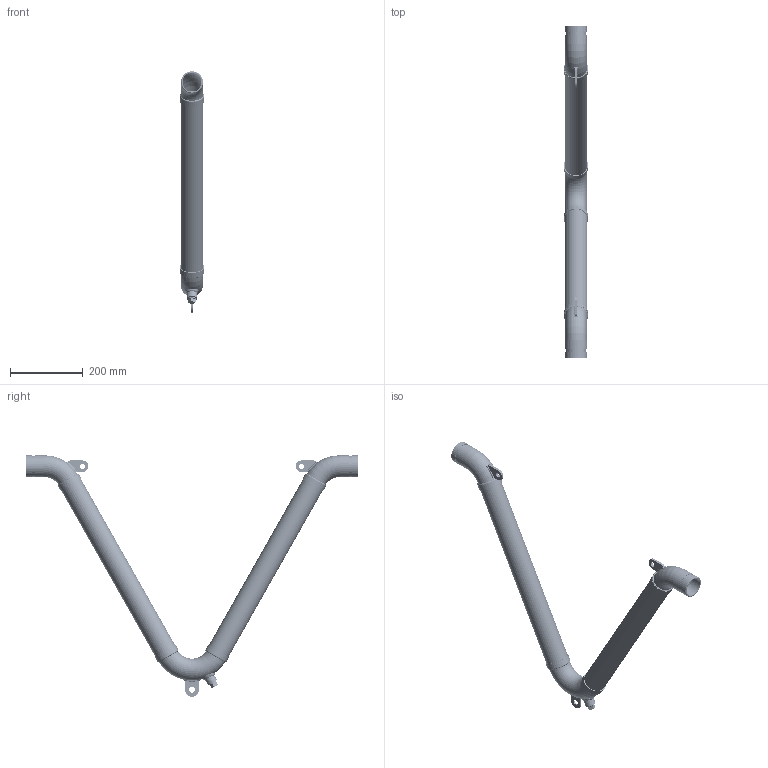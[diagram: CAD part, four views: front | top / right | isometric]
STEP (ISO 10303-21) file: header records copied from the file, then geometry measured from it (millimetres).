
FILE_DESCRIPTION((''),'2;1');
FILE_NAME('\\Mleuckt7400\cad-proe_solids2\WEBSITE FILES 05.22.13\STEP\VGN\VGN-2.stp','2013-07-23T09:24:24',('rramoutar'),(''),'Autodesk Inventor 2012','Autodesk Inventor 2012','');
FILE_SCHEMA(('AUTOMOTIVE_DESIGN { 1 0 10303 214 1 1 1 1 }'));
Length unit declared in the file: inch
Products named in the file (12): A-30590-3 VGN 2 inch.iam (LevelofDetail1); A-30590-3 VGN 2 inch.iam (LevelofDetail1)_Welds; A-30590-3 ELBOW 120 DEG FOR 2 INCH VGN; A-30590-3 ELBOW 60 DEG FOR 2 INCH VGN; A-30590-3 VGN 2 INCH NIPPLE; A-28692-2 SUPORT CLIP VMN,VGN,VFL 2INCH, 2.5INCH; A-30713 A36 STEEL COUPLING 0.5 inch; A-30713 A36 STEEL PLUG 0.5 inch; A-29795-1 CLIP VMN,VGN,VFL 2 TO 4 INCH; A-29781-7 2.0 inch braid collar; A-29781-7 SS BRAID VGN 2 INCH; A-29781-7 VGN 2.0 STAINLESS STEEL HOSE
Assembly tree (19 placements, depth 2):
  A-30590-3 VGN 2 inch.iam (LevelofDetail1)
    A-30590-3 VGN 2 inch.iam (LevelofDetail1)_Welds
    A-30590-3 ELBOW 120 DEG FOR 2 INCH VGN
    A-30590-3 ELBOW 60 DEG FOR 2 INCH VGN  x2
    A-30590-3 VGN 2 INCH NIPPLE  x2
    A-28692-2 SUPORT CLIP VMN,VGN,VFL 2INCH, 2.5INCH
    A-30713 A36 STEEL COUPLING 0.5 inch
    A-30713 A36 STEEL PLUG 0.5 inch
    A-29795-1 CLIP VMN,VGN,VFL 2 TO 4 INCH  x2
    A-29781-7 2.0 inch braid collar  x4
    A-29781-7 SS BRAID VGN 2 INCH  x2
    A-29781-7 VGN 2.0 STAINLESS STEEL HOSE  x2
Bounding box: 66.98 x 914.4 x 665.16 mm (x, y, z)
Volume: 602259.9 mm3; surface area: 1671025.6 mm2
Topology: 26 solids, 26 shells, 1843 faces, 2845 edges, 1899 vertices
Faces by surface type: plane 922, torus 866, cylinder 36, bspline 15, cone 4
Full cylindrical faces by diameter (mm): 14.288 x2, 15.875 x1, 18.256 x1, 21.336 x3, 28.575 x2, 52.502 x2, 57.15 x2, 60.325 x4, 61.976 x6, 62.789 x2, 66.739 x4
Entity records: 26357 total; most frequent: CARTESIAN_POINT 9448, DIRECTION 3817, ORIENTED_EDGE 2070, AXIS2_PLACEMENT_3D 1888, EDGE_LOOP 1860, EDGE_CURVE 1035, VERTEX_POINT 991, FACE_OUTER_BOUND 954
